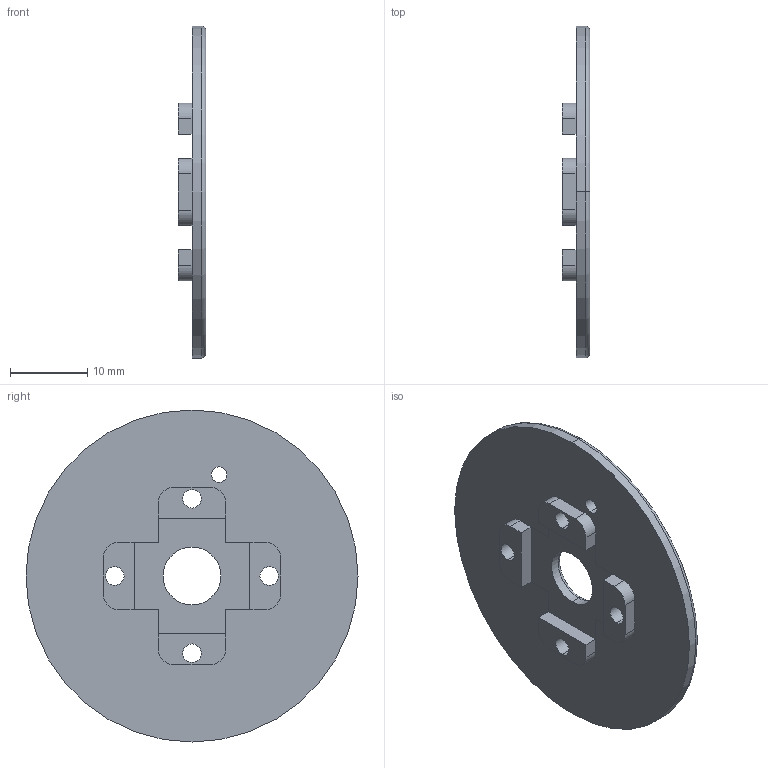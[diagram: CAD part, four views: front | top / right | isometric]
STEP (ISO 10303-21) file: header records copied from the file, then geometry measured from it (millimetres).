
FILE_DESCRIPTION(/* description */ ('AP-214'),/* implementation_level */ '2;1');
FILE_NAME(/* name */ 'plate-gamepad.stp',/* time_stamp */ '2025-10-16T17:42:47+01:00',/* author */ (''),/* organization */ (''),/* preprocessor_version */ '',/* originating_system */ '',/* authorisation */ '');
FILE_SCHEMA(('AUTOMOTIVE_DESIGN'));
Length unit declared in the file: millimetre
Products named in the file (2): plate-gamepad
Assembly tree (1 placements, depth 2):
  plate-gamepad
    (unnamed)
Bounding box: 3.6 x 43 x 43 mm (x, y, z)
Volume: 2641.5 mm3; surface area: 3293.9 mm2
Topology: 1 solids, 1 shells, 57 faces, 146 edges, 92 vertices
Faces by surface type: plane 23, cylinder 22, cone 8, torus 4
Entity records: 1810 total; most frequent: DIRECTION 328, CARTESIAN_POINT 299, ORIENTED_EDGE 292, EDGE_CURVE 146, AXIS2_PLACEMENT_3D 121, VERTEX_POINT 92, LINE 86, VECTOR 86
